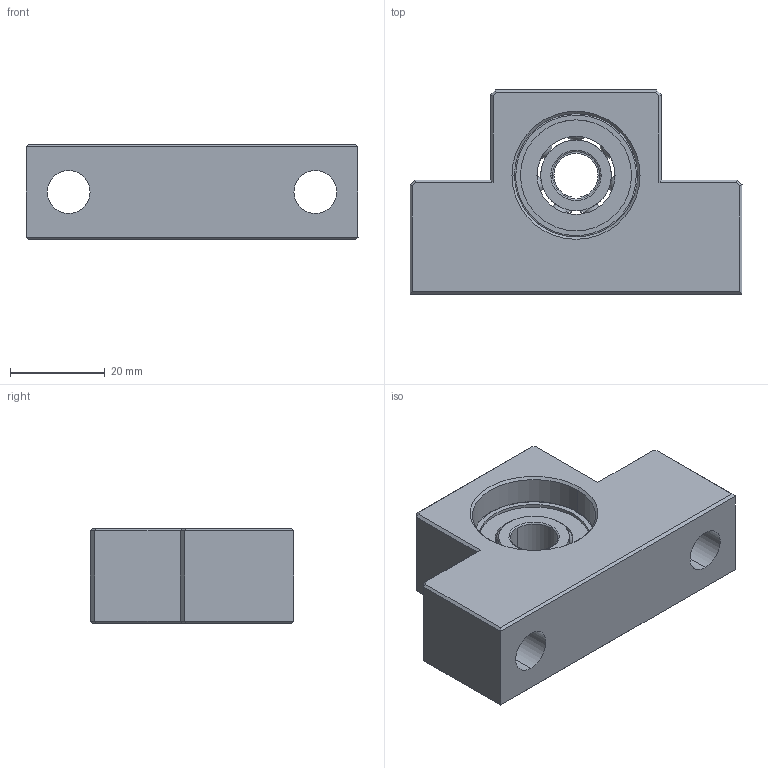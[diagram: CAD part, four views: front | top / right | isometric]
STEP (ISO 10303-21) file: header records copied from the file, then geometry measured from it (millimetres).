
FILE_DESCRIPTION (( 'STEP AP214' ), '1' );
FILE_NAME ('7.4034 EF12.STEP', '2026-03-06T08:03:57', ( '' ), ( '' ), 'SwSTEP 2.0', 'SolidWorks 2025', '' );
FILE_SCHEMA (( 'AUTOMOTIVE_DESIGN' ));
Length unit declared in the file: millimetre
Products named in the file (1): 7.4034 EF12
Bounding box: 70 x 43 x 20 mm (x, y, z)
Volume: 35739.8 mm3; surface area: 14576.4 mm2
Topology: 3 solids, 3 shells, 264 faces, 804 edges, 512 vertices
Faces by surface type: plane 95, sphere 70, bspline 49, cylinder 46, cone 4
Entity records: 14493 total; most frequent: CARTESIAN_POINT 6098, ORIENTED_EDGE 1524, DIRECTION 1160, EDGE_CURVE 762, VERTEX_POINT 498, AXIS2_PLACEMENT_3D 462, EDGE_LOOP 298, FACE_OUTER_BOUND 264
